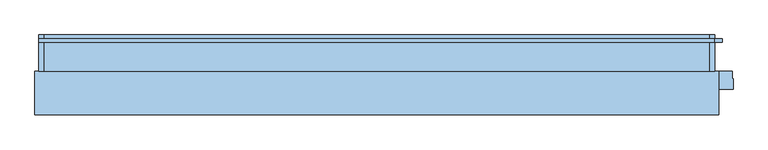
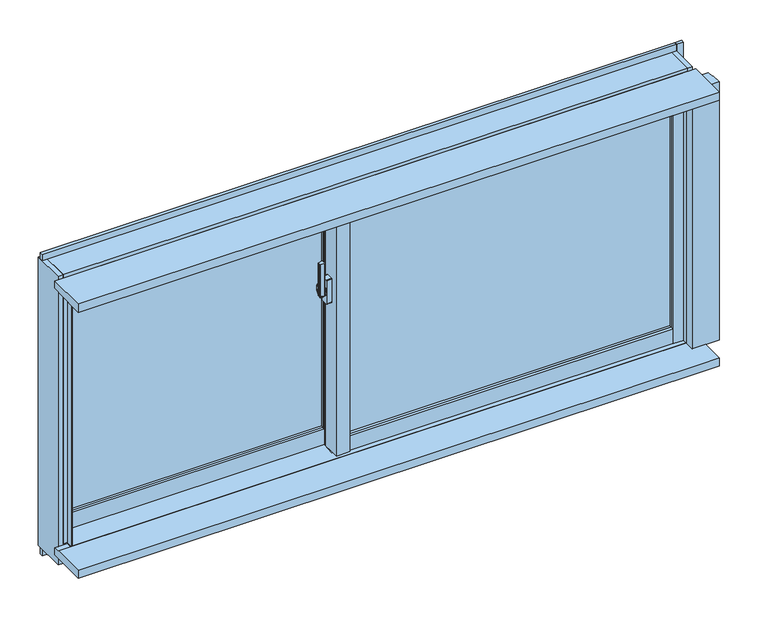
"""IFC4 building model written with IfcOpenShell, lengths in millimetres: window geometry, FNSⅡ100R_個別防火_面付枠_単窓 : 外動片引."""

from ifc_helpers import new_model, si_unit, point, frame, frame_2d, origin, place, context, project, spatial, polyline, circle_curve, trimmed, segment, composite_curve, outline, extrude, faceted_brep, source, transform, mapped, element, save
from ifc_brep_helpers import plane_surface, cylinder_surface, revolved_surface, advanced_brep


def window_9f836f41(model_context):
    return source(origin(), model_context, "Body", "SolidModel", [
        extrude(outline(composite_curve([segment(polyline([(-139.0, 34.6), (-139.0, 26.4)]), True, "CONTINUOUS"), segment(trimmed(circle_curve(frame_2d((-141.0, 26.4)), 2.0), [point((-139.0, 26.4))], [point((-141.3606557, 24.4327869))], False, "CARTESIAN"), True, "CONTINUOUS"), segment(polyline([(-141.3606557, 24.4327869), (-152.3606557, 26.4494536)]), True, "CONTINUOUS"), segment(trimmed(circle_curve(frame_2d((-152.0, 28.4166667)), 2.0), [point((-152.3606557, 26.4494536))], [point((-154.0, 28.4166667))], False, "CARTESIAN"), True, "CONTINUOUS"), segment(polyline([(-154.0, 28.4166667), (-154.0, 32.5833333)]), True, "CONTINUOUS"), segment(trimmed(circle_curve(frame_2d((-152.0, 32.5833333)), 2.0), [point((-154.0, 32.5833333))], [point((-152.3606557, 34.5505464))], False, "CARTESIAN"), True, "CONTINUOUS"), segment(polyline([(-152.3606557, 34.5505464), (-141.3606557, 36.5672131)]), True, "CONTINUOUS"), segment(trimmed(circle_curve(frame_2d((-141.0, 34.6)), 2.0), [point((-141.3606557, 36.5672131))], [point((-139.0, 34.6))], False, "CARTESIAN"), True, "CONTINUOUS")], self_intersect=False)), frame((0.0, 0.0, 1390.0), z_axis=(0.0, 0.0, 1.0), x_axis=(1.0, 0.0, 0.0)), (0.0, 0.0, 1.0), 100.0),
        advanced_brep(
        [(-137.5, 38.8234285, 1421.7333311), (-145.5, 38.8234285, 1421.7333311), (-145.5, 38.4351999, 1420.2844424), (-139.0, 38.4351999, 1420.2844424), (-139.0, 36.6234666, 1413.5229616), (-137.5, 36.6234666, 1413.5229616), (-139.0, 36.6466117, 1379.3190372), (-145.5, 36.6466117, 1379.3190372), (-145.5, 36.907084, 1377.8418256), (-137.5, 36.907084, 1377.8418256), (-137.5, 35.4310745, 1386.2126915), (-139.0, 35.4310745, 1386.2126915)],
        [
            (0, 1),
            (1, 2),
            (2, 3),
            (3, 4),
            (4, 5),
            (5, 0),
            (6, 7),
            (7, 8),
            (8, 9),
            (9, 10),
            (10, 11),
            (11, 6),
            (0, 9, circle_curve(frame((-137.5, 33.0, 1400.0), z_axis=(-1.0, 0.0, 0.0), x_axis=(0.0, 0.25881904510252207, 0.965925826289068)), 22.5)),
            (8, 1, circle_curve(frame((-145.5, 33.0, 1400.0), z_axis=(1.0, 0.0, 0.0), x_axis=(0.0, 0.25881904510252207, 0.965925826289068)), 22.5)),
            (7, 2, circle_curve(frame((-145.5, 33.0, 1400.0), z_axis=(1.0, 0.0, 0.0), x_axis=(0.0, 0.25881904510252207, 0.965925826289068)), 21.0)),
            (6, 3, circle_curve(frame((-139.0, 33.0, 1400.0), z_axis=(1.0, 0.0, 0.0), x_axis=(0.0, 0.25881904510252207, 0.965925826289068)), 21.0)),
            (11, 4, circle_curve(frame((-139.0, 33.0, 1400.0), z_axis=(-1.0, 0.0, 0.0), x_axis=(0.0, -1.0, 0.0)), 14.0)),
            (5, 10, circle_curve(frame((-137.5, 33.0, 1400.0), z_axis=(1.0, 0.0, 0.0), x_axis=(0.0, -1.0, 0.0)), 14.0)),
        ],
        [
            plane_surface(frame((-143.5470497, 33.0, 1400.0), z_axis=(0.0, -0.965925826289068, 0.25881904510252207), x_axis=(0.0, 0.25881904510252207, 0.965925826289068))),
            plane_surface(frame((-143.5470497, 33.0, 1400.0), z_axis=(0.0, -0.9848077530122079, -0.17364817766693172), x_axis=(0.0, 0.17364817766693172, -0.9848077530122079))),
            cylinder_surface(frame((-143.5470497, 33.0, 1400.0), z_axis=(-1.0, 0.0, 0.0), x_axis=(0.0, 0.25881904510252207, 0.965925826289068)), 22.5),
            plane_surface(frame((-145.5, 33.0, 1400.0), z_axis=(-1.0, 0.0, 0.0), x_axis=(0.0, 0.25881904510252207, 0.965925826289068))),
            revolved_surface(polyline([(-145.5, 38.43519994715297, 1420.2844423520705), (-139.0, 38.43519994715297, 1420.2844423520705)]), (-143.5470497, 33.0, 1400.0), (-1.0, 0.0, 0.0)),
            plane_surface(frame((-139.0, 33.0, 1400.0), z_axis=(-1.0, 0.0, 0.0), x_axis=(0.0, 0.25881904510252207, 0.965925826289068))),
            plane_surface(frame((-137.5, 33.0, 1400.0), z_axis=(1.0, 0.0, 0.0), x_axis=(0.0, 0.25881904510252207, 0.965925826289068))),
            cylinder_surface(frame((-137.5, 33.0, 1400.0), z_axis=(-1.0, 0.0, 0.0), x_axis=(0.0, -1.0, 0.0)), 14.0),
        ],
        [
            (0, [[1, 2, 3, 4, 5, 6]]),
            (1, [[7, 8, 9, 10, 11, 12]]),
            (2, [[-1, 13, -9, 14]]),
            (3, [[-2, -14, -8, 15]]),
            (4, [[-3, -15, -7, 16]]),
            (5, [[-16, -12, 17, -4]]),
            (6, [[-13, -6, 18, -10]]),
            (7, [[-17, -11, -18, -5]]),
        ],
    ),
        extrude(outline(composite_curve([segment(trimmed(circle_curve(frame_2d((33.0, 1400.0)), 11.5), [point((44.5, 1400.0))], [point((21.5, 1400.0))], False, "CARTESIAN"), True, "CONTINUOUS"), segment(trimmed(circle_curve(frame_2d((33.0, 1400.0)), 11.5), [point((21.5, 1400.0))], [point((44.5, 1400.0))], False, "CARTESIAN"), True, "CONTINUOUS")], self_intersect=False)), frame((-137.5, 0.0, 0.0), z_axis=(1.0, 0.0, 0.0), x_axis=(0.0, 1.0, 0.0)), (0.0, 0.0, 1.0), 2.5),
        extrude(outline(composite_curve([segment(polyline([(24.0, 1437.5), (42.0, 1437.5)]), True, "CONTINUOUS"), segment(trimmed(circle_curve(frame_2d((42.0, 1435.5)), 2.0), [point((42.0, 1437.5))], [point((44.0, 1435.5))], False, "CARTESIAN"), True, "CONTINUOUS"), segment(polyline([(44.0, 1435.5), (44.0, 1364.5)]), True, "CONTINUOUS"), segment(trimmed(circle_curve(frame_2d((42.0, 1364.5)), 2.0), [point((44.0, 1364.5))], [point((42.0, 1362.5))], False, "CARTESIAN"), True, "CONTINUOUS"), segment(polyline([(42.0, 1362.5), (24.0, 1362.5)]), True, "CONTINUOUS"), segment(trimmed(circle_curve(frame_2d((24.0, 1364.5)), 2.0), [point((24.0, 1362.5))], [point((22.0, 1364.5))], False, "CARTESIAN"), True, "CONTINUOUS"), segment(polyline([(22.0, 1364.5), (22.0, 1435.5)]), True, "CONTINUOUS"), segment(trimmed(circle_curve(frame_2d((24.0, 1435.5)), 2.0), [point((22.0, 1435.5))], [point((24.0, 1437.5))], False, "CARTESIAN"), True, "CONTINUOUS")], self_intersect=False)), frame((-135.0, 0.0, 0.0), z_axis=(1.0, 0.0, 0.0), x_axis=(0.0, 1.0, 0.0)), (0.0, 0.0, 1.0), 15.0),
        extrude(outline(polyline([(-80.0, 24.0), (868.0, 24.0), (868.0, 18.0), (-80.0, 18.0), (-80.0, 24.0)])), frame((0.0, 0.0, 948.0), z_axis=(0.0, 0.0, 1.0), x_axis=(1.0, 0.0, 0.0)), (0.0, 0.0, 1.0), 712.0),
        extrude(outline(polyline([(-80.0, 42.0), (868.0, 42.0), (868.0, 36.0), (-80.0, 36.0), (-80.0, 42.0)])), frame((0.0, 0.0, 948.0), z_axis=(0.0, 0.0, 1.0), x_axis=(1.0, 0.0, 0.0)), (0.0, 0.0, 1.0), 712.0),
        extrude(outline(polyline([(-868.0, 82.0), (-120.0, 82.0), (-120.0, 76.0), (-868.0, 76.0), (-868.0, 82.0)])), frame((0.0, 0.0, 948.0), z_axis=(0.0, 0.0, 1.0), x_axis=(1.0, 0.0, 0.0)), (0.0, 0.0, 1.0), 712.0),
        extrude(outline(polyline([(-868.0, 100.0), (-120.0, 100.0), (-120.0, 94.0), (-868.0, 94.0), (-868.0, 100.0)])), frame((0.0, 0.0, 948.0), z_axis=(0.0, 0.0, 1.0), x_axis=(1.0, 0.0, 0.0)), (0.0, 0.0, 1.0), 712.0),
        faceted_brep([(-900.0, 79.0, 1700.0), (-889.5, 79.0, 1700.0), (-889.5, 66.0, 1700.0), (-868.0, 66.0, 1700.0), (-868.0, 108.0, 1700.0), (-900.0, 108.0, 1700.0), (-868.0, 79.0, 860.0), (-900.0, 79.0, 860.0), (-900.0, 108.0, 860.0), (-868.0, 108.0, 860.0), (-868.0, 79.0, 900.0), (-889.5, 79.0, 900.0), (-889.5, 66.0, 900.0), (-868.0, 66.0, 900.0)], [[[0, 1, 2, 3, 4, 5]], [[6, 7, 8, 9]], [[1, 0, 7, 6, 10, 11]], [[2, 1, 11, 12]], [[3, 2, 12, 13]], [[4, 3, 13, 10, 6, 9]], [[5, 4, 9, 8]], [[7, 0, 5, 8]], [[11, 10, 13, 12]]]),
        faceted_brep([(-80.0, 79.0, 900.0), (-120.0, 79.0, 900.0), (-120.0, 79.0, 860.0), (-80.0, 79.0, 860.0), (-120.0, 65.5, 1700.0), (-101.8, 65.5, 1700.0), (-101.8, 53.1, 1700.0), (-80.0, 53.1, 1700.0), (-80.0, 108.0, 1700.0), (-120.0, 108.0, 1700.0), (-120.0, 108.0, 860.0), (-80.0, 108.0, 860.0), (-120.0, 65.5, 900.0), (-101.8, 65.5, 900.0), (-101.8, 53.1, 900.0), (-80.0, 53.1, 900.0)], [[[0, 1, 2, 3]], [[4, 5, 6, 7, 8, 9]], [[10, 11, 3, 2]], [[5, 4, 12, 13]], [[6, 5, 13, 14]], [[7, 6, 14, 15]], [[8, 7, 15, 0, 3, 11]], [[9, 8, 11, 10]], [[4, 9, 10, 2, 1, 12]], [[1, 0, 15, 14, 13, 12]]]),
        extrude(outline(polyline([(-120.0, 53.1), (-115.0, 53.1), (-115.0, 8.0), (-82.6, 8.0), (-82.6, 12.0), (-80.0, 12.0), (-80.0, 0.0), (-120.0, 0.0), (-120.0, 53.1)])), frame((0.0, 0.0, 900.0), z_axis=(0.0, 0.0, 1.0), x_axis=(1.0, 0.0, 0.0)), (0.0, 0.0, 1.0), 800.0),
        extrude(outline(polyline([(-115.0, 53.1), (-80.0, 53.1), (-80.0, 12.0), (-82.6, 12.0), (-82.6, 8.0), (-115.0, 8.0), (-115.0, 53.1)])), frame((0.0, 0.0, 900.0), z_axis=(0.0, 0.0, 1.0), x_axis=(1.0, 0.0, 0.0)), (0.0, 0.0, 1.0), 800.0),
        extrude(outline(polyline([(868.0, 0.0), (868.0, 8.0), (889.5, 8.0), (889.5, 21.0), (897.0, 21.0), (897.0, 0.0), (868.0, 0.0)])), frame((0.0, 0.0, 903.0), z_axis=(0.0, 0.0, 1.0), x_axis=(1.0, 0.0, 0.0)), (0.0, 0.0, 1.0), 797.0),
        extrude(outline(polyline([(868.0, 50.0), (900.0, 50.0), (900.0, 21.0), (889.5, 21.0), (889.5, 8.0), (868.0, 8.0), (868.0, 50.0)])), frame((0.0, 0.0, 900.0), z_axis=(0.0, 0.0, 1.0), x_axis=(1.0, 0.0, 0.0)), (0.0, 0.0, 1.0), 800.0),
        extrude(outline(polyline([(-101.8, 65.5), (-101.8, 58.0), (-120.0, 58.0), (-120.0, 65.5), (-101.8, 65.5)])), frame((0.0, 0.0, 900.0), z_axis=(0.0, 0.0, 1.0), x_axis=(1.0, 0.0, 0.0)), (0.0, 0.0, 1.0), 800.0),
        extrude(outline(polyline([(-897.0, 79.0), (-889.5, 79.0), (-889.5, 66.0), (-868.0, 66.0), (-868.0, 58.0), (-897.0, 58.0), (-897.0, 79.0)])), frame((0.0, 0.0, 900.0), z_axis=(0.0, 0.0, 1.0), x_axis=(1.0, 0.0, 0.0)), (0.0, 0.0, 1.0), 800.0),
        extrude(outline(polyline([(2.0, 903.0), (2.0, 948.0), (10.0, 948.0), (10.0, 925.5), (21.0, 925.5), (21.0, 903.0), (2.0, 903.0)])), frame((-80.0, 0.0, 0.0), z_axis=(1.0, 0.0, 0.0), x_axis=(0.0, 1.0, 0.0)), (0.0, 0.0, 1.0), 948.0),
        extrude(outline(polyline([(50.0, 900.0), (21.0, 900.0), (21.0, 925.5), (10.0, 925.5), (10.0, 948.0), (50.0, 948.0), (50.0, 900.0)])), frame((-80.0, 0.0, 0.0), z_axis=(1.0, 0.0, 0.0), x_axis=(0.0, 1.0, 0.0)), (0.0, 0.0, 1.0), 948.0),
        extrude(outline(polyline([(60.0, 948.0), (68.0, 948.0), (68.0, 925.5), (79.0, 925.5), (79.0, 900.0), (60.0, 900.0), (60.0, 948.0)])), frame((-868.0, 0.0, 0.0), z_axis=(1.0, 0.0, 0.0), x_axis=(0.0, 1.0, 0.0)), (0.0, 0.0, 1.0), 748.0),
        extrude(outline(polyline([(108.0, 860.0), (79.0, 860.0), (79.0, 925.5), (68.0, 925.5), (68.0, 948.0), (108.0, 948.0), (108.0, 860.0)])), frame((-868.0, 0.0, 0.0), z_axis=(1.0, 0.0, 0.0), x_axis=(0.0, 1.0, 0.0)), (0.0, 0.0, 1.0), 748.0),
        extrude(outline(polyline([(23.0, 1680.5), (10.0, 1680.5), (10.0, 1660.0), (2.0, 1660.0), (2.0, 1700.0), (23.0, 1700.0), (23.0, 1680.5)])), frame((-80.0, 0.0, 0.0), z_axis=(1.0, 0.0, 0.0), x_axis=(0.0, 1.0, 0.0)), (0.0, 0.0, 1.0), 948.0),
        extrude(outline(polyline([(50.0, 1700.0), (50.0, 1660.0), (10.0, 1660.0), (10.0, 1680.5), (23.0, 1680.5), (23.0, 1700.0), (50.0, 1700.0)])), frame((-80.0, 0.0, 0.0), z_axis=(1.0, 0.0, 0.0), x_axis=(0.0, 1.0, 0.0)), (0.0, 0.0, 1.0), 948.0),
        extrude(outline(polyline([(81.0, 1680.5), (68.0, 1680.5), (68.0, 1660.0), (60.0, 1660.0), (60.0, 1700.0), (81.0, 1700.0), (81.0, 1680.5)])), frame((-868.0, 0.0, 0.0), z_axis=(1.0, 0.0, 0.0), x_axis=(0.0, 1.0, 0.0)), (0.0, 0.0, 1.0), 748.0),
        extrude(outline(polyline([(108.0, 1700.0), (108.0, 1660.0), (68.0, 1660.0), (68.0, 1680.5), (81.0, 1680.5), (81.0, 1700.0), (108.0, 1700.0)])), frame((-868.0, 0.0, 0.0), z_axis=(1.0, 0.0, 0.0), x_axis=(0.0, 1.0, 0.0)), (0.0, 0.0, 1.0), 748.0),
        extrude(outline(polyline([(-122.0, 80.3), (-122.0, 31.9), (-900.0, 31.9), (-900.0, 80.3), (-122.0, 80.3)])), frame((0.0, 0.0, 1700.0), z_axis=(0.0, 0.0, 1.0), x_axis=(1.0, 0.0, 0.0)), (0.0, 0.0, 1.0), 25.0),
        faceted_brep([(915.0, 80.3, 1725.0), (915.0, 10.0, 1725.0), (-915.0, 10.0, 1725.0), (-915.0, 80.3, 1725.0), (-122.0, 80.3, 1725.0), (-122.0, 31.9, 1725.0), (900.0, 31.9, 1725.0), (900.0, 80.3, 1725.0), (915.0, 80.3, 1700.0), (900.0, 80.3, 1700.0), (-915.0, 80.3, 1700.0), (-122.0, 80.3, 1700.0), (915.0, 110.0, 1700.0), (900.0, 31.9, 1700.0), (-122.0, 31.9, 1700.0), (-915.0, 110.0, 1700.0), (915.0, 110.0, 1735.0), (-915.0, 110.0, 1735.0), (915.0, 10.0, 1735.0), (-915.0, 10.0, 1735.0)], [[[0, 1, 2, 3, 4, 5, 6, 7]], [[8, 0, 7, 9]], [[3, 10, 11, 4]], [[12, 8, 9, 13, 14, 11, 10, 15]], [[16, 12, 15, 17]], [[18, 16, 17, 19]], [[1, 18, 19, 2]], [[12, 16, 18, 1, 0, 8]], [[15, 10, 3, 2, 19, 17]], [[6, 13, 9, 7]], [[11, 14, 5, 4]], [[13, 6, 5, 14]]]),
        extrude(outline(polyline([(31.9, 1700.0), (-10.0, 1700.0), (-10.0, 1703.0), (10.0, 1703.0), (10.0, 1725.0), (31.9, 1725.0), (31.9, 1700.0)])), frame((-900.0, 0.0, 0.0), z_axis=(1.0, 0.0, 0.0), x_axis=(0.0, 1.0, 0.0)), (0.0, 0.0, 1.0), 1800.0),
        faceted_brep([(900.0, 10.0, 1720.0), (915.0, 10.0, 1720.0), (915.0, 14.5, 1720.0), (900.0, 14.5, 1720.0), (900.0, -10.0, 900.0), (900.0, 14.5, 900.0), (915.0, 14.5, 900.0), (915.0, 10.0, 900.0), (903.0, 10.0, 900.0), (903.0, -10.0, 900.0), (903.0, -10.0, 1703.0), (900.0, -10.0, 1703.0), (903.0, 10.0, 1703.0), (900.0, 10.0, 1703.0)], [[[0, 1, 2, 3]], [[4, 5, 6, 7, 8, 9]], [[4, 9, 10, 11]], [[9, 8, 12, 10]], [[0, 13, 12, 8, 7, 1]], [[2, 1, 7, 6]], [[3, 2, 6, 5]], [[5, 4, 11, 13, 0, 3]], [[12, 13, 11, 10]]]),
        faceted_brep([(-915.0, 10.0, 1720.0), (-900.0, 10.0, 1720.0), (-900.0, 76.0, 1720.0), (-915.0, 76.0, 1720.0), (-915.0, 10.0, 900.0), (-915.0, 76.0, 900.0), (-900.0, 76.0, 900.0), (-900.0, -10.0, 900.0), (-903.0, -10.0, 900.0), (-903.0, 10.0, 900.0), (-903.0, 10.0, 1703.0), (-900.0, 10.0, 1703.0), (-903.0, -10.0, 1703.0), (-900.0, -10.0, 1703.0)], [[[0, 1, 2, 3]], [[4, 5, 6, 7, 8, 9]], [[4, 9, 10, 11, 1, 0]], [[9, 8, 12, 10]], [[8, 7, 13, 12]], [[7, 6, 2, 1, 11, 13]], [[3, 2, 6, 5]], [[4, 0, 3, 5]], [[11, 10, 12, 13]]]),
        faceted_brep([(-930.0, 110.0, 1735.0), (-930.0, 10.0, 1735.0), (-915.0, 10.0, 1735.0), (-915.0, 110.0, 1735.0), (-930.0, 110.0, 840.0), (-915.0, 110.0, 840.0), (-915.0, 10.0, 840.0), (-930.0, 10.0, 840.0), (-915.0, 110.0, 849.0), (-915.0, 76.0, 849.0), (-915.0, 76.0, 1700.0), (-915.0, 110.0, 1700.0), (-900.0, 110.0, 1700.0), (-900.0, 110.0, 849.0), (-900.0, 76.0, 1700.0), (-900.0, 76.0, 849.0)], [[[0, 1, 2, 3]], [[4, 5, 6, 7]], [[1, 0, 4, 7]], [[2, 1, 7, 6]], [[3, 2, 6, 5, 8, 9, 10, 11]], [[0, 3, 11, 12, 13, 8, 5, 4]], [[12, 11, 10, 14]], [[13, 15, 9, 8]], [[14, 10, 9, 15]], [[12, 14, 15, 13]]]),
        faceted_brep([(915.0, 10.0, 1735.0), (930.0, 10.0, 1735.0), (930.0, 110.0, 1735.0), (915.0, 110.0, 1735.0), (915.0, 10.0, 840.0), (915.0, 110.0, 840.0), (930.0, 110.0, 840.0), (930.0, 10.0, 840.0), (915.0, 14.5, 1700.0), (900.0, 14.5, 1700.0), (900.0, 14.5, 849.0), (915.0, 14.5, 849.0), (900.0, 110.0, 1700.0), (900.0, 110.0, 849.0), (915.0, 110.0, 1700.0), (915.0, 110.0, 849.0)], [[[0, 1, 2, 3]], [[4, 5, 6, 7]], [[8, 9, 10, 11]], [[9, 12, 13, 10]], [[9, 8, 14, 12]], [[10, 13, 15, 11]], [[1, 0, 4, 7]], [[2, 1, 7, 6]], [[3, 2, 6, 5, 15, 13, 12, 14]], [[0, 3, 14, 8, 11, 15, 5, 4]]]),
        faceted_brep([(900.0, 37.25, 900.0), (900.0, 37.25, 884.0), (-122.0, 37.25, 884.0), (-122.0, 37.25, 900.0), (915.0, 10.0, 884.0), (915.0, 76.0, 884.0), (-915.0, 76.0, 884.0), (-915.0, 10.0, 884.0), (900.0, 18.8, 884.0), (-122.0, 18.8, 884.0), (915.0, 76.0, 849.0), (-915.0, 76.0, 849.0), (915.0, 110.0, 849.0), (-915.0, 110.0, 849.0), (915.0, 110.0, 840.0), (915.0, 10.0, 840.0), (-915.0, 10.0, 840.0), (-915.0, 110.0, 840.0), (900.0, 18.8, 900.0), (-122.0, 18.8, 900.0)], [[[0, 1, 2, 3]], [[4, 5, 6, 7], [1, 8, 9, 2]], [[5, 10, 11, 6]], [[10, 12, 13, 11]], [[14, 15, 16, 17]], [[14, 12, 10, 5, 4, 15]], [[17, 16, 7, 6, 11, 13]], [[15, 4, 7, 16]], [[12, 14, 17, 13]], [[18, 8, 1, 0]], [[19, 3, 2, 9]], [[8, 18, 19, 9]], [[18, 0, 3, 19]]]),
        faceted_brep([(-900.0, 76.0, 900.0), (-900.0, 76.0, 884.0), (-900.0, 18.8, 884.0), (-900.0, 18.8, 900.0), (903.0, -10.0, 900.0), (903.0, -10.0, 897.0), (903.0, 10.0, 897.0), (903.0, 10.0, 884.0), (903.0, 14.5, 884.0), (903.0, 14.5, 900.0), (-903.0, 10.0, 884.0), (-903.0, 10.0, 897.0), (-903.0, -10.0, 897.0), (-903.0, -10.0, 900.0), (-903.0, 18.8, 900.0), (-903.0, 18.8, 884.0), (900.0, 14.5, 900.0), (900.0, 18.8, 900.0), (-122.0, 18.8, 900.0), (-122.0, 76.0, 900.0), (900.0, 18.8, 884.0), (-122.0, 18.8, 884.0), (-122.0, 76.0, 884.0), (900.0, 14.5, 884.0)], [[[0, 1, 2, 3]], [[4, 5, 6, 7, 8, 9]], [[10, 11, 12, 13, 14, 15]], [[7, 6, 11, 10]], [[6, 5, 12, 11]], [[5, 4, 13, 12]], [[14, 13, 4, 9, 16, 17, 18, 19, 0, 3]], [[15, 14, 3, 2]], [[17, 20, 21, 18]], [[10, 15, 2, 1, 22, 21, 20, 23, 8, 7]], [[16, 23, 20, 17]], [[23, 16, 9, 8]], [[19, 18, 21, 22]], [[19, 22, 1, 0]]]),
        extrude(outline(polyline([(-110.0, 900.0), (-10.0, 900.0), (-10.0, 897.0), (10.0, 897.0), (10.0, 875.0), (-110.0, 875.0), (-110.0, 900.0)])), frame((-940.0, 0.0, 0.0), z_axis=(1.0, 0.0, 0.0), x_axis=(0.0, 1.0, 0.0)), (0.0, 0.0, 1.0), 1880.0),
        extrude(outline(polyline([(-930.0, 90.0), (-930.0, 100.0), (930.0, 100.0), (930.0, 90.0), (-930.0, 90.0)])), frame((0.0, 0.0, 820.0), z_axis=(0.0, 0.0, 1.0), x_axis=(1.0, 0.0, 0.0)), (0.0, 0.0, 1.0), 20.0),
        extrude(outline(polyline([(950.0, 90.0), (930.0, 90.0), (930.0, 100.0), (950.0, 100.0), (950.0, 90.0)])), frame((0.0, 0.0, 820.0), z_axis=(0.0, 0.0, 1.0), x_axis=(1.0, 0.0, 0.0)), (0.0, 0.0, 1.0), 935.0),
        extrude(outline(polyline([(903.0, -10.0), (903.0, 10.0), (977.0, 10.0), (977.0, -10.0), (980.0, -10.0), (980.0, -40.0), (900.0, -40.0), (900.0, -10.0), (903.0, -10.0)])), frame((0.0, 0.0, 900.0), z_axis=(0.0, 0.0, 1.0), x_axis=(1.0, 0.0, 0.0)), (0.0, 0.0, 1.0), 800.0),
        extrude(outline(polyline([(-110.0, 1725.0), (10.0, 1725.0), (10.0, 1703.0), (-10.0, 1703.0), (-10.0, 1700.0), (-110.0, 1700.0), (-110.0, 1725.0)])), frame((-940.0, 0.0, 0.0), z_axis=(1.0, 0.0, 0.0), x_axis=(0.0, 1.0, 0.0)), (0.0, 0.0, 1.0), 1880.0),
        extrude(outline(polyline([(-930.0, 90.0), (-930.0, 100.0), (930.0, 100.0), (930.0, 90.0), (-930.0, 90.0)])), frame((0.0, 0.0, 1735.0), z_axis=(0.0, 0.0, 1.0), x_axis=(1.0, 0.0, 0.0)), (0.0, 0.0, 1.0), 20.0),
    ])


if __name__ == "__main__":
    model = new_model("IFC4")
    model_context = context("Model", 3, world=origin())
    ifc_project = project(units=[si_unit("LENGTHUNIT", "METRE", prefix="MILLI")], contexts=[model_context])
    site = spatial("IfcSite", under=ifc_project)
    building = spatial("IfcBuilding", under=site)
    placement = place(None, origin())
    window_shape = window_9f836f41(model_context)
    element("IfcWindow", 1, ObjectType="FNSⅡ100R_個別防火_面付枠_単窓 : 外動片引", at=placement, inside=building, context=model_context, shape_type="MappedRepresentation", body=[
        mapped(window_shape, transform((0.0, 0.0, 0.0), x_axis=(1.0, 0.0, 0.0), y_axis=(0.0, 1.0, 0.0), z_axis=(0.0, 0.0, 1.0))),
    ])
    save(model, "model.ifc")
